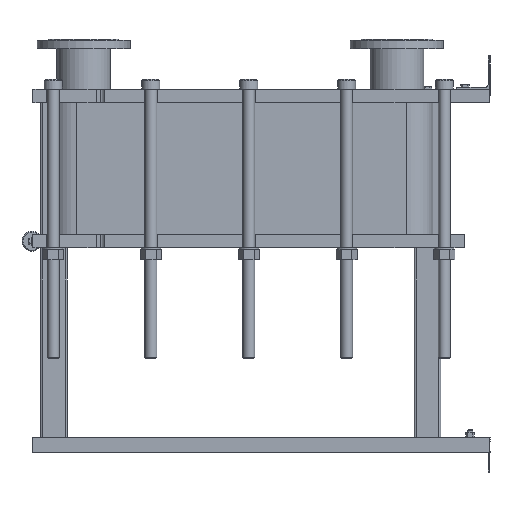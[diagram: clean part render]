
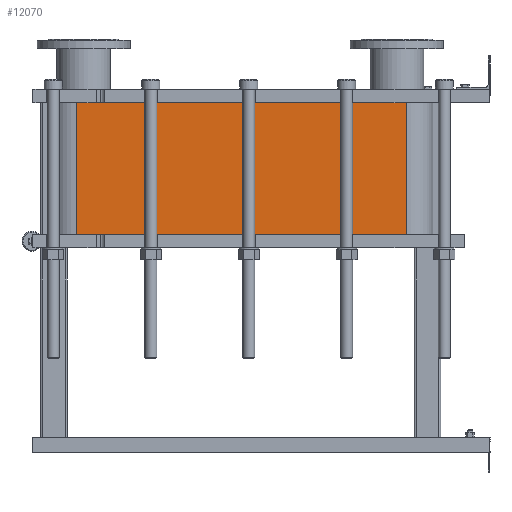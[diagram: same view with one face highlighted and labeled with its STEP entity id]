
A CAD part, left-side view. The second image highlights one B-rep face of the part: STEP entity #12070.
In plain terms, the highlighted planar face has unit normal (-1, 0, 0).
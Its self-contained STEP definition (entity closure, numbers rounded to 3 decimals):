
#1064=LINE('',#21140,#2164);
#1065=LINE('',#21144,#2165);
#1066=LINE('',#21146,#2166);
#1067=LINE('',#21147,#2167);
#2164=VECTOR('',#15790,10.);
#2165=VECTOR('',#15795,10.);
#2166=VECTOR('',#15796,10.);
#2167=VECTOR('',#15797,10.);
#3304=FACE_OUTER_BOUND('',#4091,.T.);
#4091=EDGE_LOOP('',(#9793,#9794,#9795,#9796));
#5677=VERTEX_POINT('',#21137);
#5678=VERTEX_POINT('',#21139);
#5679=VERTEX_POINT('',#21143);
#5680=VERTEX_POINT('',#21145);
#7118=EDGE_CURVE('',#5678,#5677,#1064,.T.);
#7120=EDGE_CURVE('',#5677,#5679,#1065,.T.);
#7121=EDGE_CURVE('',#5680,#5679,#1066,.T.);
#7122=EDGE_CURVE('',#5680,#5678,#1067,.T.);
#9793=ORIENTED_EDGE('',*,*,#7120,.T.);
#9794=ORIENTED_EDGE('',*,*,#7121,.F.);
#9795=ORIENTED_EDGE('',*,*,#7122,.T.);
#9796=ORIENTED_EDGE('',*,*,#7118,.T.);
#11441=PLANE('',#13191);
#12070=ADVANCED_FACE('',(#3304),#11441,.T.);
#13191=AXIS2_PLACEMENT_3D('',#21142,#15793,#15794);
#15790=DIRECTION('',(0.,0.,-1.));
#15793=DIRECTION('center_axis',(-1.,0.,0.));
#15794=DIRECTION('ref_axis',(0.,1.,0.));
#15795=DIRECTION('',(0.,-1.,0.));
#15796=DIRECTION('',(0.,0.,-1.));
#15797=DIRECTION('',(0.,1.,0.));
#21137=CARTESIAN_POINT('',(-248.152,1243.818,-396.75));
#21139=CARTESIAN_POINT('',(-248.152,1243.818,0.));
#21140=CARTESIAN_POINT('',(-248.152,1243.818,0.));
#21142=CARTESIAN_POINT('Origin',(-248.152,251.818,0.));
#21143=CARTESIAN_POINT('',(-248.152,251.818,-396.75));
#21144=CARTESIAN_POINT('',(-248.152,499.818,-396.75));
#21145=CARTESIAN_POINT('',(-248.152,251.818,0.));
#21146=CARTESIAN_POINT('',(-248.152,251.818,0.));
#21147=CARTESIAN_POINT('',(-248.152,251.818,0.));
